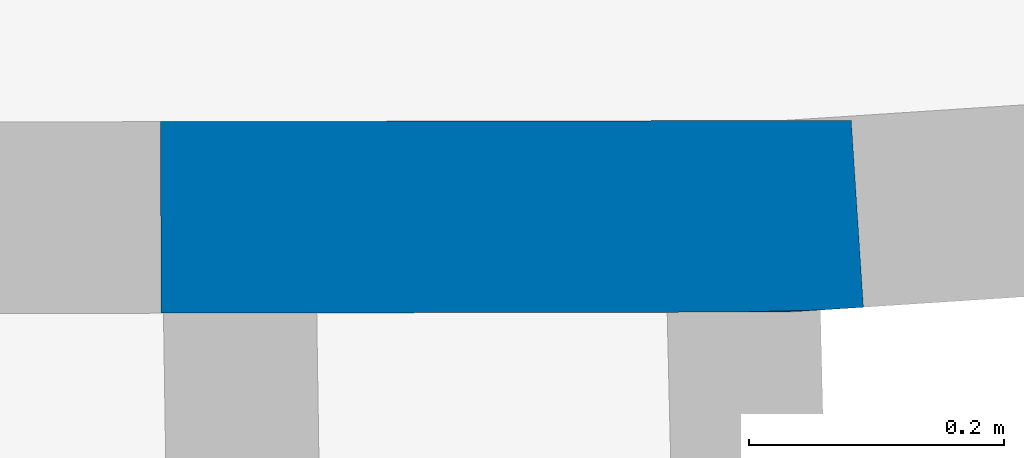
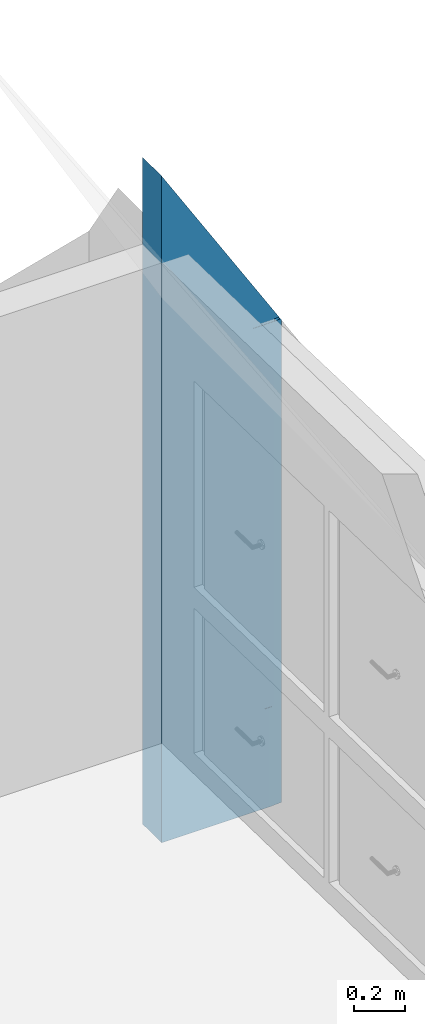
# One storey, part 22 of 39: 1 wall.
"""IFC2X3 building model written with IfcOpenShell, lengths in centimetres."""

import ifcopenshell
import ifcopenshell.guid

model = None  # the IFC model being written
_history = None  # IfcOwnerHistory: only IFC2X3 demands one
_inside = {}  # id of a spatial element -> (the spatial element, [elements in it])
_under = {}  # id of a project, library or spatial element -> (it, [spatial elements below it])
_declared = {}  # id of a project -> (the project, [libraries it declares])
_typed = {}  # id of a type object -> (the type object, [elements of that type])
_made_of = {}  # id of a material, layer set ... -> (it, [elements and type objects made of it])


def new_model(schema):
    """Start an empty IFC model of exactly this schema.

    Asked for "IFC4X3", IfcOpenShell would pick the latest addendum, in which some entities
    have other attributes; the version numbers below select the first issue.
    IFC2X3 requires an IfcOwnerHistory on every rooted entity: one is made here for all.
    """
    global model, _history
    if schema == "IFC4X3":
        model = ifcopenshell.file(schema_version=(4, 3, 0, 0))
    else:
        model = ifcopenshell.file(schema=schema)
    _inside.clear()
    _under.clear()
    _declared.clear()
    _typed.clear()
    _made_of.clear()
    _history = None
    if model.schema == "IFC2X3":
        org = make("IfcOrganization", Name="unknown")
        user = make(
            "IfcPersonAndOrganization",
            ThePerson=make("IfcPerson", FamilyName="unknown"),
            TheOrganization=org,
        )
        app = make(
            "IfcApplication",
            ApplicationDeveloper=org,
            Version="unknown",
            ApplicationFullName="unknown",
            ApplicationIdentifier="unknown",
        )
        _history = make(
            "IfcOwnerHistory",
            OwningUser=user,
            OwningApplication=app,
            ChangeAction="ADDED",
            CreationDate=0,
        )
    return model


def make(cls, **values):
    """One entity of the class cls with the attributes given. An attribute that is None is left unset."""
    return model.create_entity(
        cls, **{name: value for name, value in values.items() if value is not None}
    )


def entity(cls, *values):
    """Any entity or typed value of the class cls, its attributes in the order of the schema. None: left unset."""
    e = model.create_entity(cls)
    for i, value in enumerate(values):
        if value is not None:
            e[i] = value
    return e


def rooted(cls, **values):
    """An entity with a GlobalId (a new one), such as an element, a storey or a relation."""
    return make(cls, GlobalId=ifcopenshell.guid.new(), OwnerHistory=_history, **values)


def si_unit(unit_type, name, prefix=None):
    """IfcSIUnit, for example si_unit("LENGTHUNIT", "METRE", prefix="MILLI")."""
    return make("IfcSIUnit", UnitType=unit_type, Prefix=prefix, Name=name)


def converted_unit(unit_type, name, factor, base, dimensions=None, offset=None):
    """IfcConversionBasedUnit, such as the inch: factor (a typed value) times the base unit."""
    return make(
        "IfcConversionBasedUnit"
        if offset is None
        else "IfcConversionBasedUnitWithOffset",
        ConversionOffset=offset,
        Dimensions=None
        if dimensions is None
        else entity("IfcDimensionalExponents", *dimensions),
        UnitType=unit_type,
        Name=name,
        ConversionFactor=make(
            "IfcMeasureWithUnit", ValueComponent=factor, UnitComponent=base
        ),
    )


def assignment(units):
    """IfcUnitAssignment: the units of a project."""
    return None if units is None else make("IfcUnitAssignment", Units=units)


def point(xyz):
    """IfcCartesianPoint."""
    return None if xyz is None else make("IfcCartesianPoint", Coordinates=xyz)


def direction(xyz):
    """IfcDirection."""
    return None if xyz is None else make("IfcDirection", DirectionRatios=xyz)


def frame(location, z_axis=None, x_axis=None):
    """IfcAxis2Placement3D, a coordinate frame: its origin and axes. An axis left out is left unset."""
    return make(
        "IfcAxis2Placement3D",
        Location=point(location),
        Axis=direction(z_axis),
        RefDirection=direction(x_axis),
    )


def origin():
    """The frame at (0, 0, 0) with its axes left unset."""
    return frame((0.0, 0.0, 0.0))


def origin_with_axes():
    """The frame at (0, 0, 0) with the z axis (0, 0, 1) and the x axis (1, 0, 0) written out."""
    return frame((0.0, 0.0, 0.0), z_axis=(0.0, 0.0, 1.0), x_axis=(1.0, 0.0, 0.0))


def place(relative_to, where):
    """IfcLocalPlacement: puts the frame where relative to a parent placement (None: the world)."""
    return make(
        "IfcLocalPlacement", PlacementRelTo=relative_to, RelativePlacement=where
    )


def context(
    kind, dimensions, precision=None, world=None, true_north=None, identifier=None
):
    """IfcGeometricRepresentationContext, for example the 3D "Model" context."""
    return make(
        "IfcGeometricRepresentationContext",
        ContextIdentifier=identifier,
        ContextType=kind,
        CoordinateSpaceDimension=dimensions,
        Precision=precision,
        WorldCoordinateSystem=world,
        TrueNorth=true_north,
    )


def subcontext(parent, identifier, kind, view, scale=None):
    """IfcGeometricRepresentationSubContext, for example "Body" below "Model"."""
    return make(
        "IfcGeometricRepresentationSubContext",
        ContextIdentifier=identifier,
        ContextType=kind,
        ParentContext=parent,
        TargetScale=scale,
        TargetView=view,
    )


def project(units=None, contexts=None):
    """IfcProject with its units and contexts."""
    return rooted(
        "IfcProject",
        Name="project",
        RepresentationContexts=contexts,
        UnitsInContext=assignment(units),
    )


def spatial(cls, under=None, at=None, **own):
    """A site, building, storey or space (cls), placed at a placement, below another one or the project."""
    s = rooted(cls, ObjectPlacement=at, **own)
    if under is not None:
        _under.setdefault(under.id(), (under, []))[1].append(s)
    return s


def faces_of(points, faces, orient=None, outer=None):
    """IfcFace entities. A face is a list of loops; a loop is a list of indices into points, from 0.

    orient and outer hold one flag for each loop. By default every Orientation is true, the
    first loop of a face is its IfcFaceOuterBound and the others are IfcFaceBound.
    """
    made = []
    for i, loops in enumerate(faces):
        bounds = []
        for j, loop in enumerate(loops):
            is_outer = j == 0 if outer is None else outer[i][j]
            bounds.append(
                make(
                    "IfcFaceOuterBound" if is_outer else "IfcFaceBound",
                    Bound=make("IfcPolyLoop", Polygon=[points[k] for k in loop]),
                    Orientation=True if orient is None else orient[i][j],
                )
            )
        made.append(make("IfcFace", Bounds=bounds))
    return made


def faceted_brep(points, faces, orient=None, outer=None, voids=None):
    """IfcFacetedBrep: a solid bounded by flat faces; with voids (closed shells), ...WithVoids."""
    shared = [point(p) for p in points]
    hull = make("IfcClosedShell", CfsFaces=faces_of(shared, faces, orient, outer))
    if voids is None:
        return make("IfcFacetedBrep", Outer=hull)
    return make(
        "IfcFacetedBrepWithVoids",
        Outer=hull,
        Voids=[
            make(cls, CfsFaces=faces_of(shared, fs, o, b)) for cls, fs, o, b in voids
        ],
    )


def shape(context_of_items, identifier, shape_type, items):
    """IfcShapeRepresentation: the items that make up one representation, for example the "Body"."""
    return make(
        "IfcShapeRepresentation",
        ContextOfItems=context_of_items,
        RepresentationIdentifier=identifier,
        RepresentationType=shape_type,
        Items=items,
    )


def material(Name=None, Category=None):
    """IfcMaterial."""
    return make("IfcMaterial", Name=Name, Category=Category)


def layer(
    of_material, thickness, ventilated=None, Name=None, Category=None, Priority=None
):
    """IfcMaterialLayer: one layer of a wall or slab, of a material (None: an air gap)."""
    return make(
        "IfcMaterialLayer",
        Material=of_material,
        LayerThickness=thickness,
        IsVentilated=ventilated,
        Name=Name,
        Category=Category,
        Priority=Priority,
    )


def layer_set(layers, Name=None):
    """IfcMaterialLayerSet."""
    return make("IfcMaterialLayerSet", MaterialLayers=layers, LayerSetName=Name)


def layer_usage(for_layer_set, set_direction, sense, offset, extent=None):
    """IfcMaterialLayerSetUsage: how a layer set lies in its element."""
    return make(
        "IfcMaterialLayerSetUsage",
        ForLayerSet=for_layer_set,
        LayerSetDirection=set_direction,
        DirectionSense=sense,
        OffsetFromReferenceLine=offset,
        ReferenceExtent=extent,
    )


def made_of(thing, what):
    """Note that an element or type object is made of a material, layer set ...; save() writes the relation."""
    if what is not None:
        _made_of.setdefault(what.id(), (what, []))[1].append(thing)
    return thing


def type_object(cls, material=None, **own):
    """A type object (cls), such as IfcWallType, which elements share."""
    return made_of(rooted(cls, **own), material)


def element(
    cls,
    number,
    at=None,
    inside=None,
    cuts=None,
    type_object=None,
    material=None,
    context=None,
    identifier="Body",
    shape_type=None,
    held_by="IfcProductDefinitionShape",
    body=None,
    shapes=None,
    **own,
):
    """One element of the class cls, such as IfcWall. Its Tag is "e" and its number.

    at: its placement. inside: the storey or other place that contains it. cuts: it is an
    opening in that element (IfcRelVoidsElement). A single representation is given by context,
    identifier, shape_type and body (its items); several are given by shapes. held_by: the class
    of the entity that holds the representations. save() writes the other relations.
    """
    e = rooted(cls, Tag="e%d" % number, ObjectPlacement=at, **own)
    if body is not None:
        shapes = [shape(context, identifier, shape_type, body)]
    if shapes is not None:
        e.Representation = make(held_by, Representations=shapes)
    if inside is not None:
        _inside.setdefault(inside.id(), (inside, []))[1].append(e)
    if cuts is not None:
        rooted(
            "IfcRelVoidsElement", RelatingBuildingElement=cuts, RelatedOpeningElement=e
        )
    if type_object is not None:
        _typed.setdefault(type_object.id(), (type_object, []))[1].append(e)
    return made_of(e, material)


def aggregate(whole, parts):
    """IfcRelAggregates: a whole, such as a stair, and the parts it consists of."""
    return rooted("IfcRelAggregates", RelatingObject=whole, RelatedObjects=parts)


def save(model, path):
    """Write the relations noted so far, then the file.

    IfcRelAggregates (storeys below a building ...), IfcRelContainedInSpatialStructure (elements
    in a storey), IfcRelDefinesByType, IfcRelAssociatesMaterial and IfcRelDeclares: one each for
    every whole, place, type object, material and project.
    """
    for whole, parts in _under.values():
        aggregate(whole, parts)
    for where, things in _inside.values():
        rooted(
            "IfcRelContainedInSpatialStructure",
            RelatedElements=things,
            RelatingStructure=where,
        )
    for kind, things in _typed.values():
        rooted("IfcRelDefinesByType", RelatedObjects=things, RelatingType=kind)
    for what, things in _made_of.values():
        rooted("IfcRelAssociatesMaterial", RelatedObjects=things, RelatingMaterial=what)
    for by, libraries in _declared.values():
        rooted("IfcRelDeclares", RelatingContext=by, RelatedDefinitions=libraries)
    model.write(path)


model = new_model("IFC2X3")

# Units and contexts
model_context = context("Model", 3, precision=0.0001, world=origin(), true_north=direction((0.225632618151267, 0.974212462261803, 0.0)))
body_context = subcontext(model_context, "Body", "Model", "MODEL_VIEW")
ifc_project = project(units=[si_unit("LENGTHUNIT", "METRE", prefix="CENTI"), si_unit("AREAUNIT", "SQUARE_METRE", prefix="CENTI"), si_unit("VOLUMEUNIT", "CUBIC_METRE", prefix="CENTI"), converted_unit("PLANEANGLEUNIT", "DEGREE", entity("IfcRatioMeasure", 0.0174532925), si_unit("PLANEANGLEUNIT", "RADIAN"), dimensions=[0, 0, 0, 0, 0, 0, 0])], contexts=[model_context])

# Site, building, storey
site_placement = place(None, origin_with_axes())
site = spatial("IfcSite", under=ifc_project, at=site_placement, Name="Default Site", CompositionType="ELEMENT")
building_placement = place(site_placement, origin_with_axes())
building = spatial("IfcBuilding", under=site, at=building_placement, Name="Default Building", CompositionType="ELEMENT")
storey_placement = place(building_placement, frame((0.0, 0.0, 1088.91037418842), z_axis=(0.0, 0.0, 1.0), x_axis=(1.0, 0.0, 0.0)))
storey = spatial("IfcBuildingStorey", under=building, at=storey_placement, Name="Mezzanine", CompositionType="ELEMENT", Elevation=1088.91037418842)

# Wall
ifc_material = material(Name="<aucun>")
ifc_layer = layer(ifc_material, 15.0)
ifc_layer_set = layer_set([ifc_layer], Name="default")
ifc_layer_usage = layer_usage(ifc_layer_set, "AXIS2", "POSITIVE", -7.5)
wall_type = type_object("IfcWallType", Name="default 150", PredefinedType="NOTDEFINED", material=ifc_layer_set)
wall_placement = place(storey_placement, frame((707.773455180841, -345.08798845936, 1.06581410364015e-12), z_axis=(0.0, 0.0, 1.0), x_axis=(0.999998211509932, 0.00189128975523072, 0.0)))
element("IfcWall", 1, at=wall_placement, inside=storey, type_object=wall_type, material=ifc_layer_usage, Name="Enveloppe 195655", context=body_context, shape_type="Brep", body=[
    faceted_brep([(1.44684211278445e-05, 7.50000154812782, 1.47581090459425e-05), (-6.03136650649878, 7.50000154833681, 1.47581090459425e-05), (-6.03136650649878, 7.50000154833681, 279.702392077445), (-6.03136650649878, 7.50000154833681, 321.652808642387), (1.44684211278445e-05, 7.50000154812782, 311.887565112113), (42.7310422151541, 7.50000869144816, 242.703071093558), (45.284366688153, 7.50000869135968, 238.568988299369), (45.284366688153, 7.50000869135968, 1.47581090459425e-05), (42.7310422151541, 7.50000869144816, 1.47581090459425e-05), (42.7310422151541, 7.50000154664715, 242.703071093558), (42.7310422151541, 7.50000154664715, 1.47581090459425e-05), (48.0547001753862, 7.50000137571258, 1.47581090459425e-05), (45.284366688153, 7.50000137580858, 1.47581090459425e-05), (45.284366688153, 7.50000137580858, 233.371654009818), (48.0547001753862, 7.50000137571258, 233.371654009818), (47.6725622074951, 7.50000885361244, 234.702411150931), (45.284366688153, 7.50000885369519, 234.702411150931), (45.284366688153, 7.50000885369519, 238.568988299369), (1.69093181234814e-05, -7.50001097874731, 279.702392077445), (-5.83280866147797, -7.50001097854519, 279.702392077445), (-5.83280866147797, -7.50001097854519, 1.47581090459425e-05), (1.69093181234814e-05, -7.50001097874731, 1.47581090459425e-05), (-5.83280866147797, -7.49999435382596, 279.702392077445), (1.69093181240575e-05, -7.49999435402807, 279.702392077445), (1.69093181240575e-05, -7.49999435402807, 311.929908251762), (-6.03136402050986, -7.49999435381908, 321.695151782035), (-6.03136402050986, -7.49999435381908, 279.702392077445), (-6.03136402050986, -7.49999435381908, 1.47581090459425e-05), (-5.83280866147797, -7.49999435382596, 1.47581090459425e-05), (38.6702444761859, -7.50000076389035, 1.47581090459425e-05), (43.2048309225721, -7.50000076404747, 1.47581090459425e-05), (43.2048309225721, -7.50000076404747, 47.9999689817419), (38.6702444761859, -7.50000076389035, 47.9999689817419), (6.16820271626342, -7.49999429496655, 279.702392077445), (1.69093181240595e-05, -7.49999429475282, 279.702392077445), (1.69093181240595e-05, -7.49999429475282, 1.47581090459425e-05), (6.16820271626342, -7.49999429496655, 1.47581090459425e-05), (33.6102302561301, -7.49999429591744, 1.47581090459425e-05), (33.6102302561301, -7.49999429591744, 47.9999689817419), (33.6102302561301, -7.49999429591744, 234.702411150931), (33.6102302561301, -7.49999429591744, 257.512679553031), (1.69093181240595e-05, -7.49999429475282, 311.929908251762), (45.60735196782, -7.23707934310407, 234.702411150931), (33.6102304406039, -7.4999998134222, 234.702411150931), (33.6102304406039, -7.4999998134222, 233.371654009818), (45.60735196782, -7.23707934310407, 233.371654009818), (38.6702444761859, -7.50000076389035, 233.371654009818), (33.6102302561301, -7.50000076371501, 233.371654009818), (33.6102302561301, -7.50000076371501, 47.9999689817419), (33.6102302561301, -7.50000076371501, 1.47581090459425e-05), (45.6097649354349, -7.34792490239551, 233.371654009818), (38.6702446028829, -7.5000065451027, 233.371654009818), (38.6702446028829, -7.5000065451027, 47.9999689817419), (45.6097649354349, -7.34792490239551, 47.9999689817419), (33.6102302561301, -7.49999139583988, 234.702411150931), (38.6702444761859, -7.49999139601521, 234.702411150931), (38.6702444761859, -7.49999139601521, 249.320140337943), (33.6102302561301, -7.49999139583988, 257.512679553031), (38.6702444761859, -7.50000076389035, 234.702411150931), (43.2048309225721, -7.50000076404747, 234.702411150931), (43.2048309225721, -7.50000076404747, 241.97827861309), (38.6702444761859, -7.50000076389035, 249.320140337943), (43.2048309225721, -7.49999391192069, 234.702411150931), (45.6131012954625, -7.49999391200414, 234.702411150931), (45.6131012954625, -7.49999391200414, 238.079181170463), (43.2048309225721, -7.49999391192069, 241.97827861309), (45.6131012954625, -7.49999485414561, 234.702411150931), (47.6987430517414, -7.49999485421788, 234.702411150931), (45.6131012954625, -7.49999485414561, 238.079181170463), (-6.03136650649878, 7.49998838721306, 1.47581090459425e-05), (-6.03136402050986, -7.50000029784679, 1.47581090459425e-05), (-6.03136402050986, -7.50000029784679, 321.695151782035), (-5.83280475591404, -7.49999434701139, 321.373670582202), (2.6148683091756e-05, -7.50001096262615, 311.929913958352), (1.11680232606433e-05, 7.50000154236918, 311.887563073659), (-6.03137898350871, 7.49998836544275, 321.652800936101), (-6.03136402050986, -7.50000029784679, 279.702392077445), (-6.03136401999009, 7.49998838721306, 279.702392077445), (-6.03136401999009, 7.49998838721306, 1.47581090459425e-05), (-6.03136401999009, 7.49998838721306, 321.652808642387), (43.2048309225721, -7.49999391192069, 1.47581090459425e-05), (45.6097649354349, -7.34792490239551, 1.47581090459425e-05), (43.2048309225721, -7.49999391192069, 47.9999689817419), (33.6102302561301, -7.49999139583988, 1.47581090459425e-05), (45.284366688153, 7.49999567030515, 1.47581090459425e-05), (45.60735196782, -7.23707934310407, 1.47581090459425e-05), (45.60735196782, -7.23707934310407, 238.08776423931), (45.2844020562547, 7.49999573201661, 238.569010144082), (42.7310445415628, 7.50000869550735, 242.703072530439), (1.47728313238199e-05, 7.50000154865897, 311.887565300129), (2.97534911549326e-05, -7.50001095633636, 311.929916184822), (6.16824353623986, -7.49999422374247, 301.94315138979), (33.6102290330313, -7.49999139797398, 257.512678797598), (45.2843845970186, 7.49999606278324, 233.371654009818), (45.2843845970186, 7.49999606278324, 234.702411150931), (48.98017300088, -7.13478695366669, 1.47581090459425e-05), (48.208986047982, -7.18353945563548, 1.47581090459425e-05), (48.2090156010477, 5.06003936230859, 1.47581090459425e-05), (48.2090156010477, 5.06003936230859, 233.840766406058), (48.2089939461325, -7.18353944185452, 233.875389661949), (48.9801801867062, -7.13478694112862, 232.626648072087), (48.2089978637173, 5.06003824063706, 1.47581090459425e-05), (48.2089978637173, 5.06003824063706, 233.840766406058), (48.98017300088, -7.13478695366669, 232.626643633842), (48.208986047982, -7.18353945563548, 233.875384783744), (48.2089860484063, 5.06003936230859, 233.840766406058), (48.2089860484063, 5.06003936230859, 233.371654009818), (48.208986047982, -7.18353945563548, 233.371654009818), (45.284366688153, 7.49999567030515, 233.371654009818), (48.2090156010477, 5.06003936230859, 233.371654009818), (48.0547174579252, 7.50000246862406, 1.47581090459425e-05), (48.0547174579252, 7.50000246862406, 233.371654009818), (33.6102302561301, -7.49999139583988, 233.371654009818), (45.6097649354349, -7.34792490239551, 234.702411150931), (38.6702562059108, -7.50000074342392, 249.320147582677), (45.6097797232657, -7.3479248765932, 238.084149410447), (45.6073531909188, -7.23707934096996, 238.087764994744), (45.6097649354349, -7.34792490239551, 238.084140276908), (38.67024141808, -7.50000076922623, 249.320138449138), (43.2048513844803, -7.49999387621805, 241.978291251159), (45.6130954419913, -7.49999486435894, 238.079177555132), (47.6982314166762, -7.21585676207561, 234.702411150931), (45.284366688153, 7.49999567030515, 234.702411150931), (45.2844009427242, 7.49999573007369, 238.569009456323), (45.6073508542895, -7.237079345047, 238.087763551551), (45.6097773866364, -7.34792488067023, 238.084147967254), (47.6982368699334, -7.21585675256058, 234.702414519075), (47.6987430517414, -7.50000550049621, 234.702411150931), (45.6097719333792, -7.34792489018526, 238.08414459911), (45.6131024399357, -7.49999485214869, 238.079181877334), (47.6987315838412, -7.50000552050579, 234.702404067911), (45.6097640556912, -7.34791099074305, 1.47581090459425e-05), (45.6097640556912, -7.34791099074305, 47.9999689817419), (48.9801720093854, -7.13477127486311, 1.47581090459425e-05), (48.9801720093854, -7.13477127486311, 232.626643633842), (48.2089870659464, -7.18355555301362, 1.47581090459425e-05), (48.2089870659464, -7.18355555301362, 233.371654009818)], [[[0, 1, 2, 3, 4]], [[5, 6, 7, 8]], [[0, 4, 9, 10]], [[11, 12, 13, 14]], [[15, 16, 17]], [[18, 19, 20, 21]], [[22, 23, 24, 25, 26, 27, 28]], [[29, 30, 31, 32]], [[33, 34, 35, 36]], [[36, 37, 38, 39, 40, 41, 34, 33]], [[42, 43, 44, 45]], [[46, 47, 48, 32]], [[32, 48, 49, 29]], [[50, 51, 52, 53]], [[54, 55, 56, 57]], [[58, 59, 60, 61]], [[62, 63, 64, 65]], [[66, 67, 68]], [[69, 0, 21, 28, 70]], [[71, 72, 73, 74, 75]], [[76, 77, 78, 70]], [[71, 79, 77, 76]], [[80, 29, 81]], [[53, 32, 82]], [[83, 36, 21, 0, 8, 84, 85]], [[86, 87, 88, 89, 90, 91, 92]], [[42, 45, 93, 94]], [[95, 96, 97]], [[98, 99, 100]], [[95, 101, 102, 103]], [[104, 105, 106, 107]], [[11, 97, 96, 81, 85, 84]], [[108, 45, 50, 107, 109, 14]], [[97, 110, 111, 109]], [[85, 81, 29, 83]], [[112, 46, 50, 45]], [[42, 113, 58, 54]], [[57, 114, 115, 116]], [[62, 58, 113]], [[117, 118, 119]], [[66, 62, 113]], [[117, 119, 120]], [[121, 113, 42, 122, 15]], [[15, 123, 124, 125, 126]], [[127, 66, 113, 121]], [[121, 128, 129, 130]], [[80, 131, 132, 82]], [[96, 133, 134, 104, 107]], [[81, 135, 136, 50, 53]]]),
])

save(model, "model.ifc")
